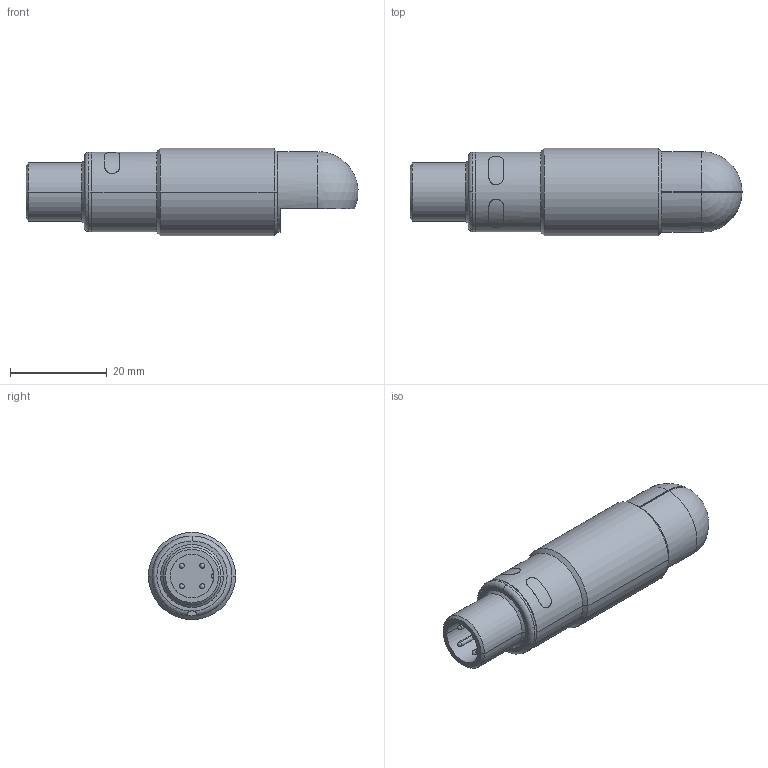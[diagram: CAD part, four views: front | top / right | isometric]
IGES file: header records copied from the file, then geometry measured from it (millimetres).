
Global section: file name: No Iges File Name specified; native system: Autodesk Inventor 2009; preprocessor: AutoDesk Inventor Iges Exporter R2009; author: Oliver Liedtke; date: 20120227.115347; units: millimetre
Bounding box: 68.58 x 18 x 18 mm (x, y, z)
Volume: 12753.7 mm3; surface area: 4043.1 mm2
Topology: 1 solids, 1 shells, 78 faces, 180 edges, 108 vertices
Faces by surface type: cylinder 25, plane 24, cone 10, revolution 7, sphere 6, bspline 4, torus 2
